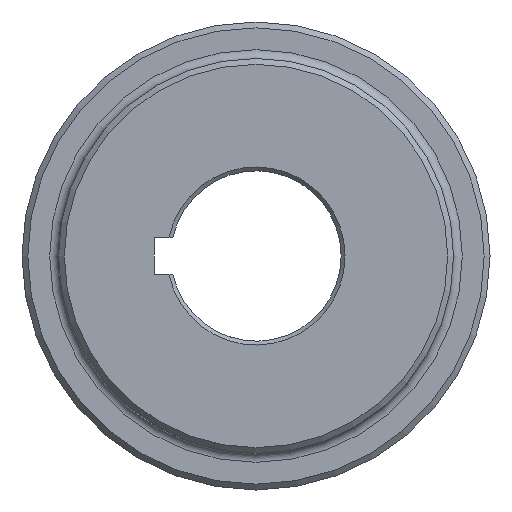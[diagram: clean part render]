
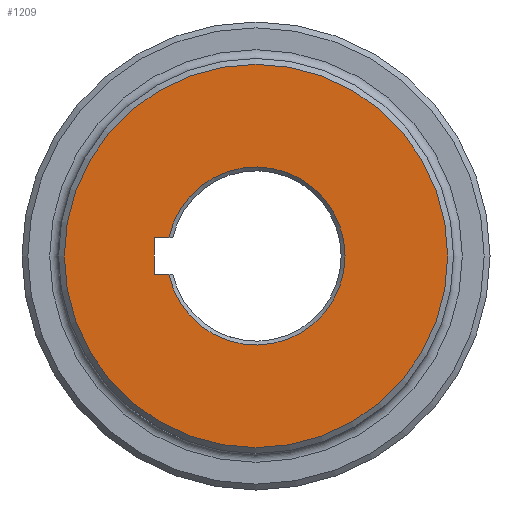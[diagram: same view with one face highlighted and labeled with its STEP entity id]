
A CAD part, left-side view. The second image highlights one B-rep face of the part: STEP entity #1209.
In plain terms, the highlighted planar face has unit normal (-1, 0, 0).
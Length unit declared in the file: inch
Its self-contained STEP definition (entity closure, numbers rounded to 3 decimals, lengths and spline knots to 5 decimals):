
#47 = ORIENTED_EDGE ( 'NONE', *, *, #1276, .F. ) ;
#51 = LINE ( 'NONE', #1186, #2205 ) ;
#138 = VECTOR ( 'NONE', #428, 39.37008 ) ;
#191 = DIRECTION ( 'NONE',  ( 0., 0., -1. ) ) ;
#241 = VERTEX_POINT ( 'NONE', #1228 ) ;
#246 = CARTESIAN_POINT ( 'NONE',  ( 0., 0., 0. ) ) ;
#343 = DIRECTION ( 'NONE',  ( 1., 0., 0. ) ) ;
#387 = EDGE_CURVE ( 'NONE', #1763, #2783, #842, .T. ) ;
#406 = DIRECTION ( 'NONE',  ( 0., 0., -1. ) ) ;
#428 = DIRECTION ( 'NONE',  ( 0., 1., 0. ) ) ;
#515 = CIRCLE ( 'NONE', #1199, 0.91525 ) ;
#551 = EDGE_CURVE ( 'NONE', #1763, #1815, #515, .T. ) ;
#618 = FACE_BOUND ( 'NONE', #1491, .T. ) ;
#842 = LINE ( 'NONE', #2178, #138 ) ;
#866 = CARTESIAN_POINT ( 'NONE',  ( 0., 0., 0. ) ) ;
#911 = DIRECTION ( 'NONE',  ( 0., 0., -1. ) ) ;
#976 = EDGE_LOOP ( 'NONE', ( #2155 ) ) ;
#1059 = AXIS2_PLACEMENT_3D ( 'NONE', #866, #343, #911 ) ;
#1104 = DIRECTION ( 'NONE',  ( 0., 0., -1. ) ) ;
#1186 = CARTESIAN_POINT ( 'NONE',  ( 0., 1.04775, -0.1875 ) ) ;
#1199 = AXIS2_PLACEMENT_3D ( 'NONE', #2028, #2616, #1104 ) ;
#1209 = ADVANCED_FACE ( 'NONE', ( #2777, #618 ), #2419, .F. ) ;
#1228 = CARTESIAN_POINT ( 'NONE',  ( 0., 0., -1.97 ) ) ;
#1260 = CARTESIAN_POINT ( 'NONE',  ( 0., 0., -0.1875 ) ) ;
#1271 = AXIS2_PLACEMENT_3D ( 'NONE', #246, #2768, #191 ) ;
#1276 = EDGE_CURVE ( 'NONE', #2783, #2652, #51, .T. ) ;
#1283 = ORIENTED_EDGE ( 'NONE', *, *, #387, .F. ) ;
#1314 = ORIENTED_EDGE ( 'NONE', *, *, #551, .T. ) ;
#1398 = CARTESIAN_POINT ( 'NONE',  ( 0., 0.89584, 0.1875 ) ) ;
#1465 = EDGE_CURVE ( 'NONE', #241, #241, #1521, .T. ) ;
#1491 = EDGE_LOOP ( 'NONE', ( #1283, #1314, #1634, #47 ) ) ;
#1521 = CIRCLE ( 'NONE', #1271, 1.97 ) ;
#1625 = CARTESIAN_POINT ( 'NONE',  ( 0., 0.89584, -0.1875 ) ) ;
#1626 = EDGE_CURVE ( 'NONE', #2652, #1815, #1931, .T. ) ;
#1634 = ORIENTED_EDGE ( 'NONE', *, *, #1626, .F. ) ;
#1644 = CARTESIAN_POINT ( 'NONE',  ( 0., 1.04775, -0.1875 ) ) ;
#1763 = VERTEX_POINT ( 'NONE', #1398 ) ;
#1815 = VERTEX_POINT ( 'NONE', #1625 ) ;
#1931 = LINE ( 'NONE', #1260, #2499 ) ;
#1953 = CARTESIAN_POINT ( 'NONE',  ( 0., 1.04775, 0.1875 ) ) ;
#2028 = CARTESIAN_POINT ( 'NONE',  ( 0., 0., 0. ) ) ;
#2155 = ORIENTED_EDGE ( 'NONE', *, *, #1465, .T. ) ;
#2178 = CARTESIAN_POINT ( 'NONE',  ( 0., 0., 0.1875 ) ) ;
#2205 = VECTOR ( 'NONE', #406, 39.37008 ) ;
#2271 = DIRECTION ( 'NONE',  ( 0., -1., 0. ) ) ;
#2419 = PLANE ( 'NONE',  #1059 ) ;
#2499 = VECTOR ( 'NONE', #2271, 39.37008 ) ;
#2616 = DIRECTION ( 'NONE',  ( 1., 0., 0. ) ) ;
#2652 = VERTEX_POINT ( 'NONE', #1644 ) ;
#2768 = DIRECTION ( 'NONE',  ( -1., 0., 0. ) ) ;
#2777 = FACE_OUTER_BOUND ( 'NONE', #976, .T. ) ;
#2783 = VERTEX_POINT ( 'NONE', #1953 ) ;
